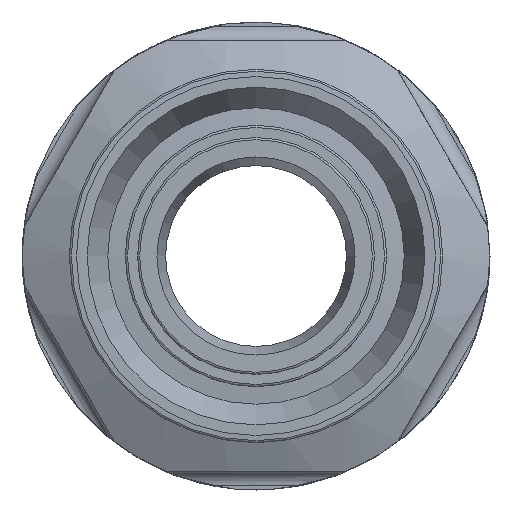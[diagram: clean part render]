
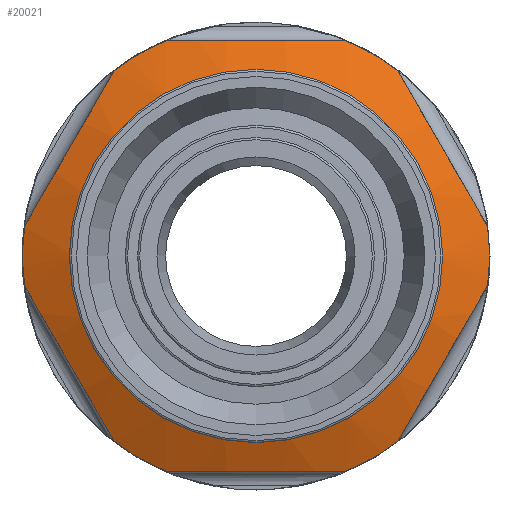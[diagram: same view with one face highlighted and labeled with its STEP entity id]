
A CAD part, left-side view. The second image highlights one B-rep face of the part: STEP entity #20021.
In plain terms, the highlighted conical face has half-angle 65.743 degrees and reference radius 12.7 mm.
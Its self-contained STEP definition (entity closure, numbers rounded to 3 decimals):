
#38=(
BOUNDED_CURVE()
B_SPLINE_CURVE(2,(#26865,#26866,#26867),.UNSPECIFIED.,.F.,.F.)
B_SPLINE_CURVE_WITH_KNOTS((3,3),(0.,1.255),.UNSPECIFIED.)
CURVE()
GEOMETRIC_REPRESENTATION_ITEM()
RATIONAL_B_SPLINE_CURVE((1.,1.083,1.))
REPRESENTATION_ITEM('')
);
#39=(
BOUNDED_CURVE()
B_SPLINE_CURVE(2,(#27387,#27388,#27389),.UNSPECIFIED.,.F.,.F.)
B_SPLINE_CURVE_WITH_KNOTS((3,3),(0.,1.255),.UNSPECIFIED.)
CURVE()
GEOMETRIC_REPRESENTATION_ITEM()
RATIONAL_B_SPLINE_CURVE((1.,1.083,1.))
REPRESENTATION_ITEM('')
);
#40=(
BOUNDED_CURVE()
B_SPLINE_CURVE(2,(#28245,#28246,#28247),.UNSPECIFIED.,.F.,.F.)
B_SPLINE_CURVE_WITH_KNOTS((3,3),(0.,1.255),.UNSPECIFIED.)
CURVE()
GEOMETRIC_REPRESENTATION_ITEM()
RATIONAL_B_SPLINE_CURVE((1.,1.083,1.))
REPRESENTATION_ITEM('')
);
#41=(
BOUNDED_CURVE()
B_SPLINE_CURVE(2,(#29100,#29101,#29102),.UNSPECIFIED.,.F.,.F.)
B_SPLINE_CURVE_WITH_KNOTS((3,3),(0.,1.255),.UNSPECIFIED.)
CURVE()
GEOMETRIC_REPRESENTATION_ITEM()
RATIONAL_B_SPLINE_CURVE((1.,1.083,1.))
REPRESENTATION_ITEM('')
);
#42=(
BOUNDED_CURVE()
B_SPLINE_CURVE(2,(#29144,#29145,#29146),.UNSPECIFIED.,.F.,.F.)
B_SPLINE_CURVE_WITH_KNOTS((3,3),(0.,1.255),.UNSPECIFIED.)
CURVE()
GEOMETRIC_REPRESENTATION_ITEM()
RATIONAL_B_SPLINE_CURVE((1.,1.083,1.))
REPRESENTATION_ITEM('')
);
#43=(
BOUNDED_CURVE()
B_SPLINE_CURVE(2,(#29253,#29254,#29255),.UNSPECIFIED.,.F.,.F.)
B_SPLINE_CURVE_WITH_KNOTS((3,3),(0.,1.255),.UNSPECIFIED.)
CURVE()
GEOMETRIC_REPRESENTATION_ITEM()
RATIONAL_B_SPLINE_CURVE((1.,1.083,1.))
REPRESENTATION_ITEM('')
);
#2062=FACE_OUTER_BOUND('',#3781,.T.);
#2084=CIRCLE('',#20378,16.25);
#2085=CIRCLE('',#20380,16.25);
#2086=CIRCLE('',#20382,16.25);
#2087=CIRCLE('',#20384,16.25);
#2088=CIRCLE('',#20386,16.25);
#2454=CIRCLE('',#21059,9.15);
#2455=CIRCLE('',#21060,9.15);
#2457=CIRCLE('',#21064,16.25);
#2458=CIRCLE('',#21065,16.25);
#2471=CONICAL_SURFACE('',#21063,12.7,1.147);
#3781=EDGE_LOOP('',(#18786,#18787,#18788,#18789,#18790,#18791,#18792,#18793,
#18794,#18795,#18796,#18797,#18798,#18799,#18800,#18801,#18802));
#6343=LINE('',#43616,#7951);
#7951=VECTOR('',#24716,12.7);
#8173=VERTEX_POINT('',#26862);
#8174=VERTEX_POINT('',#26864);
#8293=VERTEX_POINT('',#27384);
#8294=VERTEX_POINT('',#27386);
#8517=VERTEX_POINT('',#28242);
#8518=VERTEX_POINT('',#28244);
#8675=VERTEX_POINT('',#29097);
#8676=VERTEX_POINT('',#29099);
#8681=VERTEX_POINT('',#29141);
#8682=VERTEX_POINT('',#29143);
#8691=VERTEX_POINT('',#29250);
#8692=VERTEX_POINT('',#29252);
#9941=VERTEX_POINT('',#43606);
#9942=VERTEX_POINT('',#43607);
#9943=VERTEX_POINT('',#43614);
#10265=EDGE_CURVE('',#8174,#8173,#38,.T.);
#10443=EDGE_CURVE('',#8294,#8293,#39,.T.);
#10777=EDGE_CURVE('',#8518,#8517,#40,.T.);
#11012=EDGE_CURVE('',#8676,#8675,#41,.T.);
#11019=EDGE_CURVE('',#8682,#8681,#42,.T.);
#11032=EDGE_CURVE('',#8692,#8691,#43,.T.);
#11060=EDGE_CURVE('',#8174,#8691,#2084,.T.);
#11061=EDGE_CURVE('',#8692,#8675,#2085,.T.);
#11062=EDGE_CURVE('',#8676,#8517,#2086,.T.);
#11063=EDGE_CURVE('',#8518,#8681,#2087,.T.);
#11064=EDGE_CURVE('',#8682,#8293,#2088,.T.);
#12895=EDGE_CURVE('',#9941,#9942,#2454,.T.);
#12896=EDGE_CURVE('',#9942,#9941,#2455,.T.);
#12899=EDGE_CURVE('',#9943,#8173,#2457,.T.);
#12900=EDGE_CURVE('',#9943,#9942,#6343,.T.);
#12901=EDGE_CURVE('',#8294,#9943,#2458,.T.);
#18786=ORIENTED_EDGE('',*,*,#10265,.T.);
#18787=ORIENTED_EDGE('',*,*,#12899,.F.);
#18788=ORIENTED_EDGE('',*,*,#12900,.T.);
#18789=ORIENTED_EDGE('',*,*,#12896,.T.);
#18790=ORIENTED_EDGE('',*,*,#12895,.T.);
#18791=ORIENTED_EDGE('',*,*,#12900,.F.);
#18792=ORIENTED_EDGE('',*,*,#12901,.F.);
#18793=ORIENTED_EDGE('',*,*,#10443,.T.);
#18794=ORIENTED_EDGE('',*,*,#11064,.F.);
#18795=ORIENTED_EDGE('',*,*,#11019,.T.);
#18796=ORIENTED_EDGE('',*,*,#11063,.F.);
#18797=ORIENTED_EDGE('',*,*,#10777,.T.);
#18798=ORIENTED_EDGE('',*,*,#11062,.F.);
#18799=ORIENTED_EDGE('',*,*,#11012,.T.);
#18800=ORIENTED_EDGE('',*,*,#11061,.F.);
#18801=ORIENTED_EDGE('',*,*,#11032,.T.);
#18802=ORIENTED_EDGE('',*,*,#11060,.F.);
#20021=ADVANCED_FACE('',(#2062),#2471,.T.);
#20378=AXIS2_PLACEMENT_3D('',#30608,#22592,#22593);
#20380=AXIS2_PLACEMENT_3D('',#30610,#22596,#22597);
#20382=AXIS2_PLACEMENT_3D('',#30612,#22600,#22601);
#20384=AXIS2_PLACEMENT_3D('',#30614,#22604,#22605);
#20386=AXIS2_PLACEMENT_3D('',#30616,#22608,#22609);
#21059=AXIS2_PLACEMENT_3D('',#43608,#24703,#24704);
#21060=AXIS2_PLACEMENT_3D('',#43609,#24705,#24706);
#21063=AXIS2_PLACEMENT_3D('',#43613,#24712,#24713);
#21064=AXIS2_PLACEMENT_3D('',#43615,#24714,#24715);
#21065=AXIS2_PLACEMENT_3D('',#43617,#24717,#24718);
#22592=DIRECTION('center_axis',(1.,0.,0.));
#22593=DIRECTION('ref_axis',(0.,0.,-1.));
#22596=DIRECTION('center_axis',(1.,0.,0.));
#22597=DIRECTION('ref_axis',(0.,0.,-1.));
#22600=DIRECTION('center_axis',(1.,0.,0.));
#22601=DIRECTION('ref_axis',(0.,0.,-1.));
#22604=DIRECTION('center_axis',(1.,0.,0.));
#22605=DIRECTION('ref_axis',(0.,0.,-1.));
#22608=DIRECTION('center_axis',(1.,0.,0.));
#22609=DIRECTION('ref_axis',(0.,0.,-1.));
#24703=DIRECTION('center_axis',(1.,0.,0.));
#24704=DIRECTION('ref_axis',(0.,0.,-1.));
#24705=DIRECTION('center_axis',(1.,0.,0.));
#24706=DIRECTION('ref_axis',(0.,0.,-1.));
#24712=DIRECTION('center_axis',(1.,0.,0.));
#24713=DIRECTION('ref_axis',(0.,1.,0.));
#24714=DIRECTION('center_axis',(1.,0.,0.));
#24715=DIRECTION('ref_axis',(0.,0.,-1.));
#24716=DIRECTION('',(-0.411,0.912,0.));
#24717=DIRECTION('center_axis',(1.,0.,0.));
#24718=DIRECTION('ref_axis',(0.,0.,-1.));
#26862=CARTESIAN_POINT('',(12.75,-16.115,-2.087));
#26864=CARTESIAN_POINT('',(12.75,-9.865,-12.913));
#26865=CARTESIAN_POINT('Ctrl Pts',(12.75,-9.865,-12.913));
#26866=CARTESIAN_POINT('Ctrl Pts',(11.667,-12.99,-7.5));
#26867=CARTESIAN_POINT('Ctrl Pts',(12.75,-16.115,-2.087));
#27384=CARTESIAN_POINT('',(12.75,-9.865,12.913));
#27386=CARTESIAN_POINT('',(12.75,-16.115,2.087));
#27387=CARTESIAN_POINT('Ctrl Pts',(12.75,-16.115,2.087));
#27388=CARTESIAN_POINT('Ctrl Pts',(11.667,-12.99,7.5));
#27389=CARTESIAN_POINT('Ctrl Pts',(12.75,-9.865,12.913));
#28242=CARTESIAN_POINT('',(12.75,16.115,2.087));
#28244=CARTESIAN_POINT('',(12.75,9.865,12.913));
#28245=CARTESIAN_POINT('Ctrl Pts',(12.75,9.865,12.913));
#28246=CARTESIAN_POINT('Ctrl Pts',(11.667,12.99,7.5));
#28247=CARTESIAN_POINT('Ctrl Pts',(12.75,16.115,2.087));
#29097=CARTESIAN_POINT('',(12.75,9.865,-12.913));
#29099=CARTESIAN_POINT('',(12.75,16.115,-2.087));
#29100=CARTESIAN_POINT('Ctrl Pts',(12.75,16.115,-2.087));
#29101=CARTESIAN_POINT('Ctrl Pts',(11.667,12.99,-7.5));
#29102=CARTESIAN_POINT('Ctrl Pts',(12.75,9.865,-12.913));
#29141=CARTESIAN_POINT('',(12.75,6.25,15.));
#29143=CARTESIAN_POINT('',(12.75,-6.25,15.));
#29144=CARTESIAN_POINT('Ctrl Pts',(12.75,-6.25,15.));
#29145=CARTESIAN_POINT('Ctrl Pts',(11.667,0.,
15.));
#29146=CARTESIAN_POINT('Ctrl Pts',(12.75,6.25,15.));
#29250=CARTESIAN_POINT('',(12.75,-6.25,-15.));
#29252=CARTESIAN_POINT('',(12.75,6.25,-15.));
#29253=CARTESIAN_POINT('Ctrl Pts',(12.75,6.25,-15.));
#29254=CARTESIAN_POINT('Ctrl Pts',(11.667,0.,
-15.));
#29255=CARTESIAN_POINT('Ctrl Pts',(12.75,-6.25,-15.));
#30608=CARTESIAN_POINT('Origin',(12.75,0.,0.));
#30610=CARTESIAN_POINT('Origin',(12.75,0.,0.));
#30612=CARTESIAN_POINT('Origin',(12.75,0.,0.));
#30614=CARTESIAN_POINT('Origin',(12.75,0.,0.));
#30616=CARTESIAN_POINT('Origin',(12.75,0.,0.));
#43606=CARTESIAN_POINT('',(9.551,9.15,0.));
#43607=CARTESIAN_POINT('',(9.551,-9.15,0.));
#43608=CARTESIAN_POINT('Origin',(9.551,0.,0.));
#43609=CARTESIAN_POINT('Origin',(9.551,0.,0.));
#43613=CARTESIAN_POINT('Origin',(11.15,0.,0.));
#43614=CARTESIAN_POINT('',(12.75,-16.25,0.));
#43615=CARTESIAN_POINT('Origin',(12.75,0.,0.));
#43616=CARTESIAN_POINT('',(11.15,-12.7,0.));
#43617=CARTESIAN_POINT('Origin',(12.75,0.,0.));
